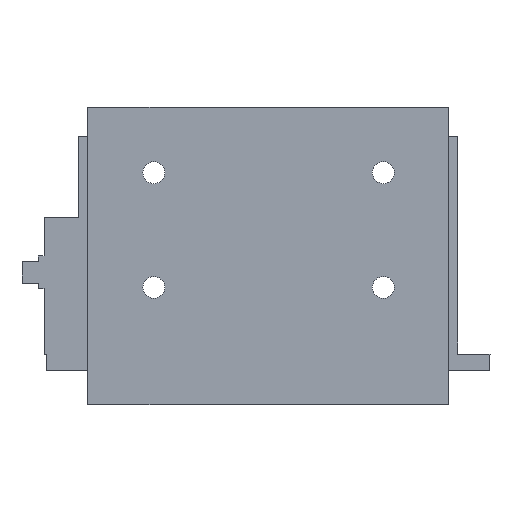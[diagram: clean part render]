
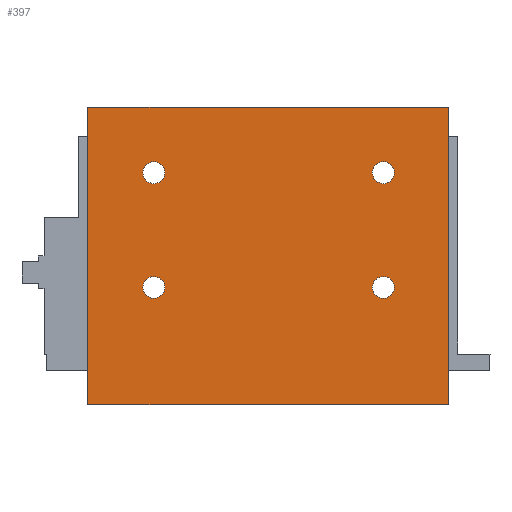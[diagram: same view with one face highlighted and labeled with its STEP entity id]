
A CAD part, front view. The second image highlights one B-rep face of the part: STEP entity #397.
In plain terms, the highlighted planar face has unit normal (0, -1, 0).
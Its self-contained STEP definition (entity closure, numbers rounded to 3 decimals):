
#8 = ORIENTED_EDGE ( 'NONE', *, *, #75, .F. ) ;
#12 = CARTESIAN_POINT ( 'NONE',  ( 46.92, -29., 15. ) ) ;
#72 = ORIENTED_EDGE ( 'NONE', *, *, #1602, .F. ) ;
#75 = EDGE_CURVE ( 'NONE', #1198, #786, #1460, .T. ) ;
#91 = DIRECTION ( 'NONE',  ( 0., 0., -1. ) ) ;
#99 = EDGE_LOOP ( 'NONE', ( #72, #515 ) ) ;
#109 = LINE ( 'NONE', #2176, #2153 ) ;
#112 = CARTESIAN_POINT ( 'NONE',  ( 79.92, -29., -9.5 ) ) ;
#125 = VERTEX_POINT ( 'NONE', #973 ) ;
#137 = DIRECTION ( 'NONE',  ( 1., 0., 0. ) ) ;
#195 = PLANE ( 'NONE',  #1430 ) ;
#215 = DIRECTION ( 'NONE',  ( 0., 1., 0. ) ) ;
#240 = CARTESIAN_POINT ( 'NONE',  ( 28., -29., 33. ) ) ;
#246 = CARTESIAN_POINT ( 'NONE',  ( 24., -29., 12. ) ) ;
#254 = CARTESIAN_POINT ( 'NONE',  ( 13.92, -29., -9.5 ) ) ;
#255 = CARTESIAN_POINT ( 'NONE',  ( 68., -29., 33. ) ) ;
#268 = DIRECTION ( 'NONE',  ( 0., -1., 0. ) ) ;
#278 = VECTOR ( 'NONE', #580, 1000. ) ;
#290 = DIRECTION ( 'NONE',  ( 0., -1., 0. ) ) ;
#299 = LINE ( 'NONE', #1188, #1395 ) ;
#304 = EDGE_CURVE ( 'NONE', #1548, #887, #1503, .T. ) ;
#321 = CIRCLE ( 'NONE', #1541, 2. ) ;
#327 = CARTESIAN_POINT ( 'NONE',  ( 26., -29., 33. ) ) ;
#359 = VERTEX_POINT ( 'NONE', #1736 ) ;
#397 = ADVANCED_FACE ( 'NONE', ( #2063, #1062, #858, #1544, #1755 ), #195, .F. ) ;
#405 = CARTESIAN_POINT ( 'NONE',  ( 79.92, -29., -9.5 ) ) ;
#410 = ORIENTED_EDGE ( 'NONE', *, *, #511, .F. ) ;
#427 = CIRCLE ( 'NONE', #716, 2. ) ;
#449 = DIRECTION ( 'NONE',  ( 1., 0., 0. ) ) ;
#457 = AXIS2_PLACEMENT_3D ( 'NONE', #2152, #268, #449 ) ;
#511 = EDGE_CURVE ( 'NONE', #1455, #1059, #1447, .T. ) ;
#515 = ORIENTED_EDGE ( 'NONE', *, *, #809, .F. ) ;
#537 = ORIENTED_EDGE ( 'NONE', *, *, #947, .F. ) ;
#538 = EDGE_CURVE ( 'NONE', #887, #1548, #1869, .T. ) ;
#572 = AXIS2_PLACEMENT_3D ( 'NONE', #1710, #1741, #876 ) ;
#580 = DIRECTION ( 'NONE',  ( -1., 0., 0. ) ) ;
#603 = AXIS2_PLACEMENT_3D ( 'NONE', #1109, #1775, #2127 ) ;
#668 = DIRECTION ( 'NONE',  ( 1., 0., 0. ) ) ;
#676 = DIRECTION ( 'NONE',  ( 0., -1., 0. ) ) ;
#714 = VERTEX_POINT ( 'NONE', #1819 ) ;
#716 = AXIS2_PLACEMENT_3D ( 'NONE', #2211, #290, #2193 ) ;
#724 = ORIENTED_EDGE ( 'NONE', *, *, #304, .F. ) ;
#730 = CARTESIAN_POINT ( 'NONE',  ( 70., -29., 12. ) ) ;
#734 = ORIENTED_EDGE ( 'NONE', *, *, #2212, .F. ) ;
#784 = CIRCLE ( 'NONE', #2013, 2. ) ;
#786 = VERTEX_POINT ( 'NONE', #1883 ) ;
#809 = EDGE_CURVE ( 'NONE', #714, #1073, #1546, .T. ) ;
#822 = DIRECTION ( 'NONE',  ( 0., -1., 0. ) ) ;
#858 = FACE_BOUND ( 'NONE', #1220, .T. ) ;
#876 = DIRECTION ( 'NONE',  ( 1., 0., 0. ) ) ;
#887 = VERTEX_POINT ( 'NONE', #1616 ) ;
#934 = DIRECTION ( 'NONE',  ( 0., -1., 0. ) ) ;
#940 = EDGE_LOOP ( 'NONE', ( #724, #2085 ) ) ;
#945 = EDGE_CURVE ( 'NONE', #786, #1198, #1791, .T. ) ;
#947 = EDGE_CURVE ( 'NONE', #1059, #952, #1806, .T. ) ;
#952 = VERTEX_POINT ( 'NONE', #254 ) ;
#960 = ORIENTED_EDGE ( 'NONE', *, *, #945, .F. ) ;
#973 = CARTESIAN_POINT ( 'NONE',  ( 24., -29., 33. ) ) ;
#995 = EDGE_LOOP ( 'NONE', ( #410, #1607, #734, #537 ) ) ;
#1059 = VERTEX_POINT ( 'NONE', #112 ) ;
#1062 = FACE_BOUND ( 'NONE', #99, .T. ) ;
#1073 = VERTEX_POINT ( 'NONE', #1816 ) ;
#1109 = CARTESIAN_POINT ( 'NONE',  ( 26., -29., 12. ) ) ;
#1188 = CARTESIAN_POINT ( 'NONE',  ( 79.92, -29., 45. ) ) ;
#1198 = VERTEX_POINT ( 'NONE', #246 ) ;
#1220 = EDGE_LOOP ( 'NONE', ( #1964, #1808 ) ) ;
#1266 = DIRECTION ( 'NONE',  ( 1., 0., 0. ) ) ;
#1275 = EDGE_LOOP ( 'NONE', ( #960, #8 ) ) ;
#1373 = EDGE_CURVE ( 'NONE', #125, #1591, #784, .T. ) ;
#1395 = VECTOR ( 'NONE', #1500, 1000. ) ;
#1430 = AXIS2_PLACEMENT_3D ( 'NONE', #12, #215, #1895 ) ;
#1447 = LINE ( 'NONE', #405, #2016 ) ;
#1455 = VERTEX_POINT ( 'NONE', #2070 ) ;
#1460 = CIRCLE ( 'NONE', #457, 2. ) ;
#1494 = CARTESIAN_POINT ( 'NONE',  ( 68., -29., 12. ) ) ;
#1500 = DIRECTION ( 'NONE',  ( 1., 0., 0. ) ) ;
#1503 = CIRCLE ( 'NONE', #1543, 2. ) ;
#1512 = DIRECTION ( 'NONE',  ( 0., 0., 1. ) ) ;
#1541 = AXIS2_PLACEMENT_3D ( 'NONE', #255, #1637, #1960 ) ;
#1543 = AXIS2_PLACEMENT_3D ( 'NONE', #1494, #822, #668 ) ;
#1544 = FACE_BOUND ( 'NONE', #940, .T. ) ;
#1546 = CIRCLE ( 'NONE', #572, 2. ) ;
#1548 = VERTEX_POINT ( 'NONE', #730 ) ;
#1591 = VERTEX_POINT ( 'NONE', #240 ) ;
#1602 = EDGE_CURVE ( 'NONE', #1073, #714, #321, .T. ) ;
#1607 = ORIENTED_EDGE ( 'NONE', *, *, #1803, .F. ) ;
#1616 = CARTESIAN_POINT ( 'NONE',  ( 66., -29., 12. ) ) ;
#1637 = DIRECTION ( 'NONE',  ( 0., -1., 0. ) ) ;
#1687 = AXIS2_PLACEMENT_3D ( 'NONE', #2118, #934, #1266 ) ;
#1710 = CARTESIAN_POINT ( 'NONE',  ( 68., -29., 33. ) ) ;
#1736 = CARTESIAN_POINT ( 'NONE',  ( 13.92, -29., 45. ) ) ;
#1741 = DIRECTION ( 'NONE',  ( 0., -1., 0. ) ) ;
#1755 = FACE_OUTER_BOUND ( 'NONE', #995, .T. ) ;
#1775 = DIRECTION ( 'NONE',  ( 0., -1., 0. ) ) ;
#1791 = CIRCLE ( 'NONE', #603, 2. ) ;
#1803 = EDGE_CURVE ( 'NONE', #359, #1455, #299, .T. ) ;
#1806 = LINE ( 'NONE', #1968, #278 ) ;
#1808 = ORIENTED_EDGE ( 'NONE', *, *, #1373, .F. ) ;
#1811 = EDGE_CURVE ( 'NONE', #1591, #125, #427, .T. ) ;
#1816 = CARTESIAN_POINT ( 'NONE',  ( 70., -29., 33. ) ) ;
#1819 = CARTESIAN_POINT ( 'NONE',  ( 66., -29., 33. ) ) ;
#1869 = CIRCLE ( 'NONE', #1687, 2. ) ;
#1883 = CARTESIAN_POINT ( 'NONE',  ( 28., -29., 12. ) ) ;
#1895 = DIRECTION ( 'NONE',  ( 1., 0., 0. ) ) ;
#1960 = DIRECTION ( 'NONE',  ( 1., 0., 0. ) ) ;
#1964 = ORIENTED_EDGE ( 'NONE', *, *, #1811, .F. ) ;
#1968 = CARTESIAN_POINT ( 'NONE',  ( 79.92, -29., -9.5 ) ) ;
#2013 = AXIS2_PLACEMENT_3D ( 'NONE', #327, #676, #137 ) ;
#2016 = VECTOR ( 'NONE', #91, 1000. ) ;
#2063 = FACE_BOUND ( 'NONE', #1275, .T. ) ;
#2070 = CARTESIAN_POINT ( 'NONE',  ( 79.92, -29., 45. ) ) ;
#2085 = ORIENTED_EDGE ( 'NONE', *, *, #538, .F. ) ;
#2118 = CARTESIAN_POINT ( 'NONE',  ( 68., -29., 12. ) ) ;
#2127 = DIRECTION ( 'NONE',  ( 1., 0., 0. ) ) ;
#2152 = CARTESIAN_POINT ( 'NONE',  ( 26., -29., 12. ) ) ;
#2153 = VECTOR ( 'NONE', #1512, 1000. ) ;
#2176 = CARTESIAN_POINT ( 'NONE',  ( 13.92, -29., -9.5 ) ) ;
#2193 = DIRECTION ( 'NONE',  ( 1., 0., 0. ) ) ;
#2211 = CARTESIAN_POINT ( 'NONE',  ( 26., -29., 33. ) ) ;
#2212 = EDGE_CURVE ( 'NONE', #952, #359, #109, .T. ) ;
